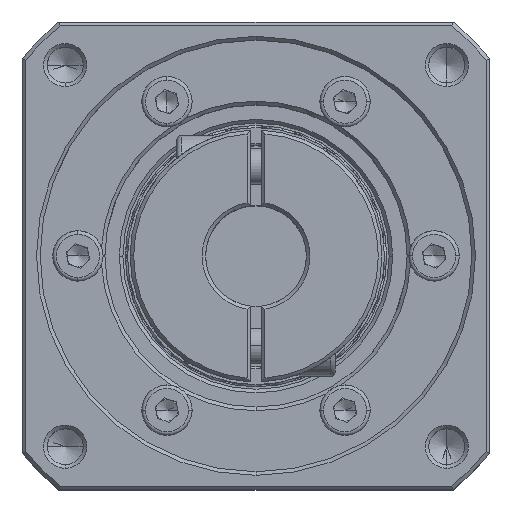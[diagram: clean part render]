
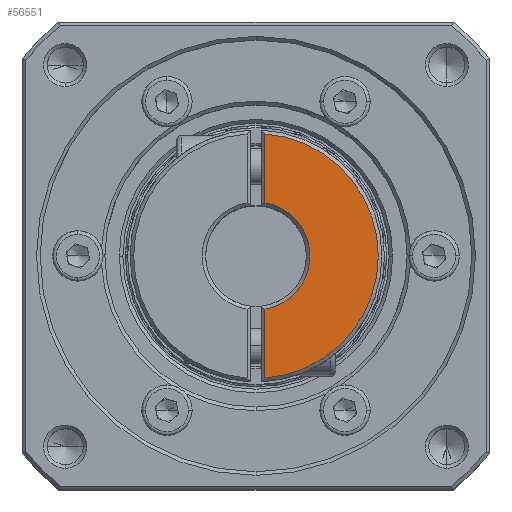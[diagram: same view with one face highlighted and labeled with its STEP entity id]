
A CAD part, top view. The second image highlights one B-rep face of the part: STEP entity #56551.
In plain terms, the highlighted planar face has unit normal (0, 0, 1).
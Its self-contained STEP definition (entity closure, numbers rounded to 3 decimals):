
#32 = LINE ( 'NONE', #87594, #110035 ) ;
#4793 = CARTESIAN_POINT ( 'NONE',  ( -48.628, 0.015, 28.764 ) ) ;
#7636 = CARTESIAN_POINT ( 'NONE',  ( -49.878, 16.969, 28.764 ) ) ;
#12652 = VECTOR ( 'NONE', #64954, 1000. ) ;
#13775 = AXIS2_PLACEMENT_3D ( 'NONE', #28408, #106424, #19501 ) ;
#15149 = VERTEX_POINT ( 'NONE', #46555 ) ;
#15420 = ORIENTED_EDGE ( 'NONE', *, *, #60125, .T. ) ;
#16755 = DIRECTION ( 'NONE',  ( -1., 0., 0. ) ) ;
#18139 = LINE ( 'NONE', #47670, #12652 ) ;
#19501 = DIRECTION ( 'NONE',  ( -1., 0., 0. ) ) ;
#26201 = CARTESIAN_POINT ( 'NONE',  ( -48.628, 9.574, 28.764 ) ) ;
#28192 = CARTESIAN_POINT ( 'NONE',  ( -48.628, 24.364, 28.764 ) ) ;
#28408 = CARTESIAN_POINT ( 'NONE',  ( -49.878, -0.531, 28.764 ) ) ;
#29417 = EDGE_CURVE ( 'NONE', #15149, #65719, #18139, .T. ) ;
#36194 = DIRECTION ( 'NONE',  ( 0., 0., -1. ) ) ;
#42542 = EDGE_LOOP ( 'NONE', ( #80731, #15420, #78898, #110556 ) ) ;
#43622 = EDGE_CURVE ( 'NONE', #15149, #101711, #99758, .T. ) ;
#43827 = DIRECTION ( 'NONE',  ( 0., -1., 0. ) ) ;
#46555 = CARTESIAN_POINT ( 'NONE',  ( -48.628, 33.923, 28.764 ) ) ;
#47670 = CARTESIAN_POINT ( 'NONE',  ( -48.628, 36.155, 28.764 ) ) ;
#54406 = CIRCLE ( 'NONE', #62091, 7.5 ) ;
#56551 = ADVANCED_FACE ( 'NONE', ( #66745 ), #80633, .F. ) ;
#60125 = EDGE_CURVE ( 'NONE', #100551, #101711, #32, .T. ) ;
#62091 = AXIS2_PLACEMENT_3D ( 'NONE', #94954, #36194, #76953 ) ;
#64954 = DIRECTION ( 'NONE',  ( 0., -1., 0. ) ) ;
#65719 = VERTEX_POINT ( 'NONE', #28192 ) ;
#66745 = FACE_OUTER_BOUND ( 'NONE', #42542, .T. ) ;
#76953 = DIRECTION ( 'NONE',  ( 0., -1., 0. ) ) ;
#78898 = ORIENTED_EDGE ( 'NONE', *, *, #43622, .F. ) ;
#80633 = PLANE ( 'NONE',  #13775 ) ;
#80731 = ORIENTED_EDGE ( 'NONE', *, *, #81711, .T. ) ;
#81711 = EDGE_CURVE ( 'NONE', #65719, #100551, #54406, .T. ) ;
#85559 = DIRECTION ( 'NONE',  ( 0., 0., -1. ) ) ;
#87594 = CARTESIAN_POINT ( 'NONE',  ( -48.628, 36.155, 28.764 ) ) ;
#94954 = CARTESIAN_POINT ( 'NONE',  ( -49.878, 16.969, 28.764 ) ) ;
#99163 = AXIS2_PLACEMENT_3D ( 'NONE', #7636, #85559, #16755 ) ;
#99758 = CIRCLE ( 'NONE', #99163, 17. ) ;
#100551 = VERTEX_POINT ( 'NONE', #26201 ) ;
#101711 = VERTEX_POINT ( 'NONE', #4793 ) ;
#106424 = DIRECTION ( 'NONE',  ( 0., 0., -1. ) ) ;
#110035 = VECTOR ( 'NONE', #43827, 1000. ) ;
#110556 = ORIENTED_EDGE ( 'NONE', *, *, #29417, .T. ) ;
